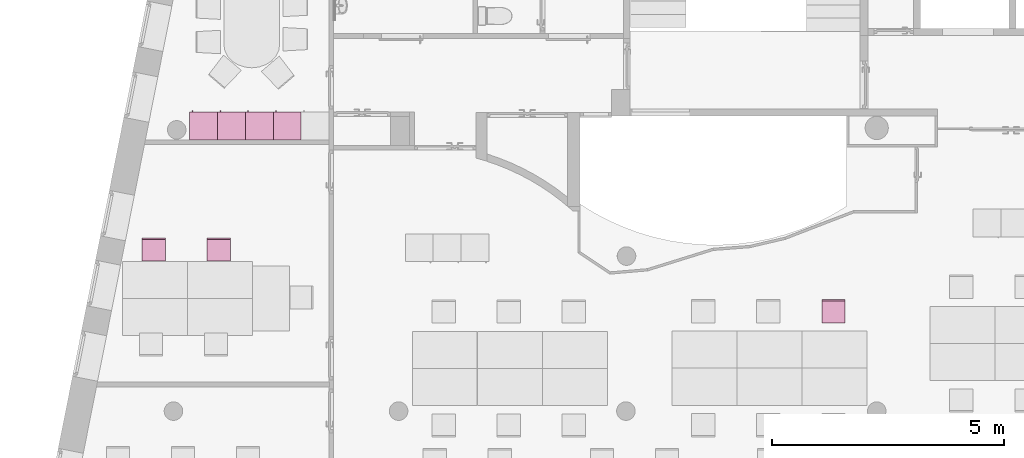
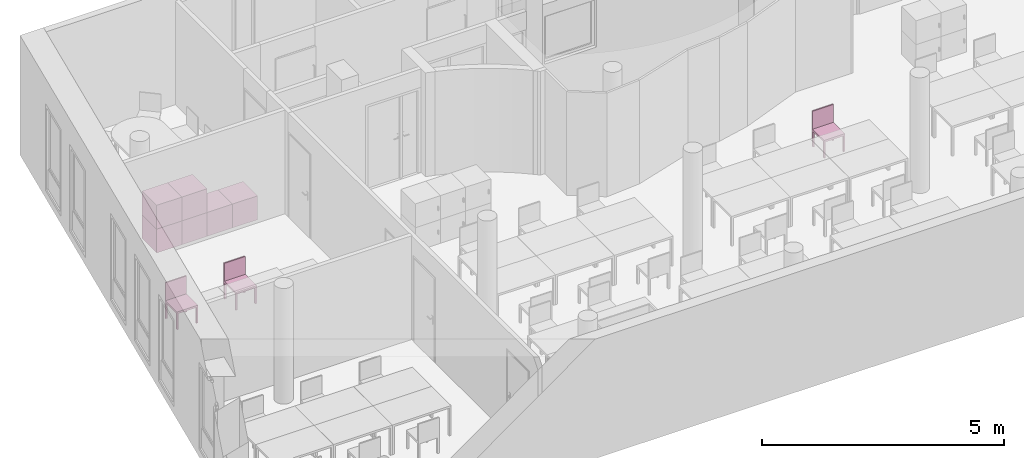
"""IFC4 building model written with IfcOpenShell, lengths in metres."""

from ifc_helpers import new_model, entity, si_unit, converted_unit, derived_unit, frame, origin, place, context, subcontext, project, spatial, faceted_brep, element, save


model = new_model("IFC4")

# Units and contexts
model_context = context("Model", 3, precision=1e-05, world=origin())
body_context = subcontext(model_context, "Body", "Model", "MODEL_VIEW")
ifc_project = project(units=[si_unit("LENGTHUNIT", "METRE"), si_unit("AREAUNIT", "SQUARE_METRE"), si_unit("VOLUMEUNIT", "CUBIC_METRE"), si_unit("MASSUNIT", "GRAM", prefix="KILO"), converted_unit("PLANEANGLEUNIT", "DEGREE", entity("IfcPlaneAngleMeasure", 0.0174532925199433), si_unit("PLANEANGLEUNIT", "RADIAN"), dimensions=[0, 0, 0, 0, 0, 0, 0]), derived_unit("THERMALTRANSMITTANCEUNIT", [(si_unit("POWERUNIT", "WATT"), 1), (si_unit("THERMODYNAMICTEMPERATUREUNIT", "KELVIN"), -1), (si_unit("LENGTHUNIT", "METRE"), -2)]), derived_unit("VOLUMETRICFLOWRATEUNIT", [(si_unit("LENGTHUNIT", "METRE"), 3), (converted_unit("TIMEUNIT", "hour", entity("IfcTimeMeasure", 3600.0), si_unit("TIMEUNIT", "SECOND"), dimensions=[0, 0, 1, 0, 0, 0, 0]), -1), (si_unit("LENGTHUNIT", "METRE"), -1)])], contexts=[model_context])

# Building, storeys
building_placement = place(None, origin())
building = spatial("IfcBuilding", under=ifc_project, at=building_placement, Name="HABITATGE PLURIFAMILIAR", CompositionType="ELEMENT")
storey_1_placement = place(building_placement, frame((0.0, 0.0, 18.29)))
storey_1 = spatial("IfcBuildingStorey", under=building, at=storey_1_placement, Name="PLANTA CINQUENA", CompositionType="ELEMENT", Elevation=18.29)
storey_2_placement = place(storey_1_placement, frame((0.0, 0.0, 15.28)))
storey_2 = spatial("IfcBuildingStorey", under=storey_1, at=storey_2_placement, Name="NOU", CompositionType="PARTIAL")

# Furniture
furniture_1_placement = place(storey_2_placement, frame((414.953718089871, 19.7007130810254, -15.2746385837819)))
element("IfcFurniture", 1, at=furniture_1_placement, inside=storey_2, Name="Cadira d'Oficina_P5", context=body_context, shape_type="Brep", body=[
    faceted_brep([(0.0, 0.0, 0.4), (0.5, 0.0, 0.4), (0.5, 0.500000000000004, 0.4), (0.0, 0.5, 0.4), (0.0, 0.5, 0.45), (0.5, 0.500000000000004, 0.45), (0.5, 0.0, 0.45), (0.0, 0.0, 0.45)], [[[0, 1, 2, 3]], [[4, 5, 6, 7]], [[3, 4, 7, 0]], [[2, 5, 4, 3]], [[1, 6, 5, 2]], [[0, 7, 6, 1]]], orient=[[False], [False], [False], [False], [False], [False]]),
    faceted_brep([(0.5, 0.460000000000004, 0.0), (0.5, 0.500000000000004, 0.0), (0.46, 0.5, 0.0), (0.46, 0.46, 0.0), (0.46, 0.46, 0.4), (0.46, 0.5, 0.4), (0.5, 0.500000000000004, 0.4), (0.5, 0.460000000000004, 0.4)], [[[0, 1, 2, 3]], [[4, 5, 6, 7]], [[3, 4, 7, 0]], [[2, 5, 4, 3]], [[1, 6, 5, 2]], [[0, 7, 6, 1]]], orient=[[False], [False], [False], [False], [False], [False]]),
    faceted_brep([(0.5, 0.0, 0.0), (0.5, 0.0400000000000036, 0.0), (0.46, 0.04, 0.0), (0.46, 0.0, 0.0), (0.46, 0.0, 0.4), (0.46, 0.04, 0.4), (0.5, 0.0400000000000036, 0.4), (0.5, 0.0, 0.4)], [[[0, 1, 2, 3]], [[4, 5, 6, 7]], [[3, 4, 7, 0]], [[2, 5, 4, 3]], [[1, 6, 5, 2]], [[0, 7, 6, 1]]], orient=[[False], [False], [False], [False], [False], [False]]),
    faceted_brep([(0.04, 0.46, 0.0), (0.04, 0.5, 0.0), (0.0, 0.5, 0.0), (0.0, 0.46, 0.0), (0.0, 0.46, 0.4), (0.0, 0.5, 0.4), (0.04, 0.5, 0.4), (0.04, 0.46, 0.4)], [[[0, 1, 2, 3]], [[4, 5, 6, 7]], [[3, 4, 7, 0]], [[2, 5, 4, 3]], [[1, 6, 5, 2]], [[0, 7, 6, 1]]], orient=[[False], [False], [False], [False], [False], [False]]),
    faceted_brep([(0.04, 0.0, 0.0), (0.04, 0.04, 0.0), (0.0, 0.04, 0.0), (0.0, 0.0, 0.0), (0.0, 0.0, 0.4), (0.0, 0.04, 0.4), (0.04, 0.04, 0.4), (0.04, 0.0, 0.4)], [[[0, 1, 2, 3]], [[4, 5, 6, 7]], [[3, 4, 7, 0]], [[2, 5, 4, 3]], [[1, 6, 5, 2]], [[0, 7, 6, 1]]], orient=[[False], [False], [False], [False], [False], [False]]),
    faceted_brep([(0.5, 0.470000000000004, 0.45), (0.5, 0.500000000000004, 0.45), (0.0, 0.5, 0.45), (0.0, 0.47, 0.45), (0.0, 0.47, 0.9), (0.0, 0.5, 0.9), (0.5, 0.500000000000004, 0.9), (0.5, 0.470000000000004, 0.9)], [[[0, 1, 2, 3]], [[4, 5, 6, 7]], [[3, 4, 7, 0]], [[2, 5, 4, 3]], [[1, 6, 5, 2]], [[0, 7, 6, 1]]], orient=[[False], [False], [False], [False], [False], [False]]),
])
furniture_2_placement = place(storey_2_placement, frame((401.713507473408, 21.030987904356, -15.2746385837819)))
element("IfcFurniture", 2, at=furniture_2_placement, inside=storey_2, Name="Cadira d'Oficina_P5", context=body_context, shape_type="Brep", body=[
    faceted_brep([(0.0, 0.0, 0.4), (0.5, 0.0, 0.4), (0.5, 0.500000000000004, 0.4), (0.0, 0.5, 0.4), (0.0, 0.5, 0.45), (0.5, 0.500000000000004, 0.45), (0.5, 0.0, 0.45), (0.0, 0.0, 0.45)], [[[0, 1, 2, 3]], [[4, 5, 6, 7]], [[3, 4, 7, 0]], [[2, 5, 4, 3]], [[1, 6, 5, 2]], [[0, 7, 6, 1]]], orient=[[False], [False], [False], [False], [False], [False]]),
    faceted_brep([(0.5, 0.460000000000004, 0.0), (0.5, 0.500000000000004, 0.0), (0.46, 0.5, 0.0), (0.46, 0.46, 0.0), (0.46, 0.46, 0.4), (0.46, 0.5, 0.4), (0.5, 0.500000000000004, 0.4), (0.5, 0.460000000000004, 0.4)], [[[0, 1, 2, 3]], [[4, 5, 6, 7]], [[3, 4, 7, 0]], [[2, 5, 4, 3]], [[1, 6, 5, 2]], [[0, 7, 6, 1]]], orient=[[False], [False], [False], [False], [False], [False]]),
    faceted_brep([(0.5, 0.0, 0.0), (0.5, 0.0400000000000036, 0.0), (0.46, 0.04, 0.0), (0.46, 0.0, 0.0), (0.46, 0.0, 0.4), (0.46, 0.04, 0.4), (0.5, 0.0400000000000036, 0.4), (0.5, 0.0, 0.4)], [[[0, 1, 2, 3]], [[4, 5, 6, 7]], [[3, 4, 7, 0]], [[2, 5, 4, 3]], [[1, 6, 5, 2]], [[0, 7, 6, 1]]], orient=[[False], [False], [False], [False], [False], [False]]),
    faceted_brep([(0.04, 0.46, 0.0), (0.04, 0.5, 0.0), (0.0, 0.5, 0.0), (0.0, 0.46, 0.0), (0.0, 0.46, 0.4), (0.0, 0.5, 0.4), (0.04, 0.5, 0.4), (0.04, 0.46, 0.4)], [[[0, 1, 2, 3]], [[4, 5, 6, 7]], [[3, 4, 7, 0]], [[2, 5, 4, 3]], [[1, 6, 5, 2]], [[0, 7, 6, 1]]], orient=[[False], [False], [False], [False], [False], [False]]),
    faceted_brep([(0.04, 0.0, 0.0), (0.04, 0.04, 0.0), (0.0, 0.04, 0.0), (0.0, 0.0, 0.0), (0.0, 0.0, 0.4), (0.0, 0.04, 0.4), (0.04, 0.04, 0.4), (0.04, 0.0, 0.4)], [[[0, 1, 2, 3]], [[4, 5, 6, 7]], [[3, 4, 7, 0]], [[2, 5, 4, 3]], [[1, 6, 5, 2]], [[0, 7, 6, 1]]], orient=[[False], [False], [False], [False], [False], [False]]),
    faceted_brep([(0.5, 0.470000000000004, 0.45), (0.5, 0.500000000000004, 0.45), (0.0, 0.5, 0.45), (0.0, 0.47, 0.45), (0.0, 0.47, 0.9), (0.0, 0.5, 0.9), (0.5, 0.500000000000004, 0.9), (0.5, 0.470000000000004, 0.9)], [[[0, 1, 2, 3]], [[4, 5, 6, 7]], [[3, 4, 7, 0]], [[2, 5, 4, 3]], [[1, 6, 5, 2]], [[0, 7, 6, 1]]], orient=[[False], [False], [False], [False], [False], [False]]),
])
furniture_3_placement = place(storey_2_placement, frame((400.312328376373, 21.030987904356, -15.2746385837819)))
element("IfcFurniture", 3, at=furniture_3_placement, inside=storey_2, Name="Cadira d'Oficina_P5", context=body_context, shape_type="Brep", body=[
    faceted_brep([(0.0, 0.0, 0.4), (0.5, 0.0, 0.4), (0.5, 0.500000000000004, 0.4), (0.0, 0.5, 0.4), (0.0, 0.5, 0.45), (0.5, 0.500000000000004, 0.45), (0.5, 0.0, 0.45), (0.0, 0.0, 0.45)], [[[0, 1, 2, 3]], [[4, 5, 6, 7]], [[3, 4, 7, 0]], [[2, 5, 4, 3]], [[1, 6, 5, 2]], [[0, 7, 6, 1]]], orient=[[False], [False], [False], [False], [False], [False]]),
    faceted_brep([(0.5, 0.460000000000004, 0.0), (0.5, 0.500000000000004, 0.0), (0.46, 0.5, 0.0), (0.46, 0.46, 0.0), (0.46, 0.46, 0.4), (0.46, 0.5, 0.4), (0.5, 0.500000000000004, 0.4), (0.5, 0.460000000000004, 0.4)], [[[0, 1, 2, 3]], [[4, 5, 6, 7]], [[3, 4, 7, 0]], [[2, 5, 4, 3]], [[1, 6, 5, 2]], [[0, 7, 6, 1]]], orient=[[False], [False], [False], [False], [False], [False]]),
    faceted_brep([(0.5, 0.0, 0.0), (0.5, 0.0400000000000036, 0.0), (0.46, 0.04, 0.0), (0.46, 0.0, 0.0), (0.46, 0.0, 0.4), (0.46, 0.04, 0.4), (0.5, 0.0400000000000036, 0.4), (0.5, 0.0, 0.4)], [[[0, 1, 2, 3]], [[4, 5, 6, 7]], [[3, 4, 7, 0]], [[2, 5, 4, 3]], [[1, 6, 5, 2]], [[0, 7, 6, 1]]], orient=[[False], [False], [False], [False], [False], [False]]),
    faceted_brep([(0.04, 0.46, 0.0), (0.04, 0.5, 0.0), (0.0, 0.5, 0.0), (0.0, 0.46, 0.0), (0.0, 0.46, 0.4), (0.0, 0.5, 0.4), (0.04, 0.5, 0.4), (0.04, 0.46, 0.4)], [[[0, 1, 2, 3]], [[4, 5, 6, 7]], [[3, 4, 7, 0]], [[2, 5, 4, 3]], [[1, 6, 5, 2]], [[0, 7, 6, 1]]], orient=[[False], [False], [False], [False], [False], [False]]),
    faceted_brep([(0.04, 0.0, 0.0), (0.04, 0.04, 0.0), (0.0, 0.04, 0.0), (0.0, 0.0, 0.0), (0.0, 0.0, 0.4), (0.0, 0.04, 0.4), (0.04, 0.04, 0.4), (0.04, 0.0, 0.4)], [[[0, 1, 2, 3]], [[4, 5, 6, 7]], [[3, 4, 7, 0]], [[2, 5, 4, 3]], [[1, 6, 5, 2]], [[0, 7, 6, 1]]], orient=[[False], [False], [False], [False], [False], [False]]),
    faceted_brep([(0.5, 0.470000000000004, 0.45), (0.5, 0.500000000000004, 0.45), (0.0, 0.5, 0.45), (0.0, 0.47, 0.45), (0.0, 0.47, 0.9), (0.0, 0.5, 0.9), (0.5, 0.500000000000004, 0.9), (0.5, 0.470000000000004, 0.9)], [[[0, 1, 2, 3]], [[4, 5, 6, 7]], [[3, 4, 7, 0]], [[2, 5, 4, 3]], [[1, 6, 5, 2]], [[0, 7, 6, 1]]], orient=[[False], [False], [False], [False], [False], [False]]),
])
furniture_4_placement = place(storey_2_placement, frame((402.536984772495, 23.6406730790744, -15.2800000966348)))
element("IfcFurniture", 4, at=furniture_4_placement, inside=storey_2, Name="Armai 60x60x60_P5", context=body_context, shape_type="Brep", body=[
    faceted_brep([(0.0, 0.6, 0.02), (0.0, 0.6, 0.0), (0.6, 0.6, 0.0), (0.6, 0.6, 0.02), (0.6, 0.0, 0.0), (0.6, 0.0, 0.02), (0.0, 0.0, 0.0), (0.0, 0.0, 0.02)], [[[0, 1, 2, 3]], [[3, 2, 4, 5]], [[5, 4, 6, 7]], [[7, 6, 1, 0]], [[0, 3, 5, 7]], [[1, 6, 4, 2]]], orient=[[False], [False], [False], [False], [False], [False]]),
    faceted_brep([(0.580000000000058, 0.0, 0.58), (0.580000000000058, 0.0200000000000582, 0.58), (0.580000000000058, 0.0200000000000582, 0.02), (0.580000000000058, 0.0, 0.02), (0.0200000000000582, 0.0200000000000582, 0.02), (0.0200000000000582, 0.0, 0.02), (0.0200000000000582, 0.0200000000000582, 0.58), (0.0200000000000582, 0.0, 0.58)], [[[0, 1, 2, 3]], [[3, 2, 4, 5]], [[5, 4, 6, 7]], [[7, 6, 1, 0]], [[0, 3, 5, 7]], [[1, 6, 4, 2]]], orient=[[False], [False], [False], [False], [False], [False]]),
    faceted_brep([(0.0200000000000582, 0.6, 0.58), (0.0, 0.6, 0.58), (0.0, 0.6, 0.02), (0.0200000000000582, 0.6, 0.02), (0.0, 0.0, 0.02), (0.0200000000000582, 0.0, 0.02), (0.0, 0.0, 0.58), (0.0200000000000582, 0.0, 0.58)], [[[0, 1, 2, 3]], [[3, 2, 4, 5]], [[5, 4, 6, 7]], [[7, 6, 1, 0]], [[0, 3, 5, 7]], [[1, 6, 4, 2]]], orient=[[False], [False], [False], [False], [False], [False]]),
    faceted_brep([(0.0, 0.58, 0.58), (0.0, 0.6, 0.58), (0.0, 0.6, 0.02), (0.0, 0.58, 0.02), (0.02, 0.6, 0.02), (0.02, 0.58, 0.02), (0.02, 0.6, 0.58), (0.02, 0.58, 0.58)], [[[0, 1, 2, 3]], [[3, 2, 4, 5]], [[5, 4, 6, 7]], [[7, 6, 1, 0]], [[0, 3, 5, 7]], [[1, 6, 4, 2]]], orient=[[False], [False], [False], [False], [False], [False]]),
    faceted_brep([(0.6, 0.6, 0.58), (0.58, 0.6, 0.58), (0.58, 0.6, 0.02), (0.6, 0.6, 0.02), (0.58, 0.0, 0.02), (0.6, 0.0, 0.02), (0.58, 0.0, 0.58), (0.6, 0.0, 0.58)], [[[0, 1, 2, 3]], [[3, 2, 4, 5]], [[5, 4, 6, 7]], [[7, 6, 1, 0]], [[0, 3, 5, 7]], [[1, 6, 4, 2]]], orient=[[False], [False], [False], [False], [False], [False]]),
    faceted_brep([(0.0, 0.600000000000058, 0.6), (0.0, 0.600000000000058, 0.58), (0.600000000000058, 0.600000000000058, 0.58), (0.600000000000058, 0.600000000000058, 0.6), (0.600000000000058, 0.0, 0.58), (0.600000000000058, 0.0, 0.6), (0.0, 0.0, 0.58), (0.0, 0.0, 0.6)], [[[0, 1, 2, 3]], [[3, 2, 4, 5]], [[5, 4, 6, 7]], [[7, 6, 1, 0]], [[0, 3, 5, 7]], [[1, 6, 4, 2]]], orient=[[False], [False], [False], [False], [False], [False]]),
    faceted_brep([(0.580000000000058, 0.580000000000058, 0.58), (0.580000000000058, 0.600000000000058, 0.58), (0.580000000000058, 0.600000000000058, 0.02), (0.580000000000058, 0.580000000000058, 0.02), (0.02, 0.600000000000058, 0.02), (0.02, 0.580000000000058, 0.02), (0.02, 0.600000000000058, 0.58), (0.02, 0.580000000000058, 0.58)], [[[0, 1, 2, 3]], [[3, 2, 4, 5]], [[5, 4, 6, 7]], [[7, 6, 1, 0]], [[0, 3, 5, 7]], [[1, 6, 4, 2]]], orient=[[False], [False], [False], [False], [False], [False]]),
    faceted_brep([(0.0700000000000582, 0.600000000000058, 0.358064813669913), (0.0700000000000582, 0.630000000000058, 0.358064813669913), (0.0700000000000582, 0.630000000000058, 0.258064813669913), (0.0700000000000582, 0.600000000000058, 0.258064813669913), (0.0500000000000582, 0.630000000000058, 0.258064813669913), (0.0500000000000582, 0.600000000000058, 0.258064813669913), (0.0500000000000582, 0.630000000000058, 0.358064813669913), (0.0500000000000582, 0.600000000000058, 0.358064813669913)], [[[0, 1, 2, 3]], [[3, 2, 4, 5]], [[5, 4, 6, 7]], [[7, 6, 1, 0]], [[0, 3, 5, 7]], [[1, 6, 4, 2]]], orient=[[False], [False], [False], [False], [False], [False]]),
])
furniture_5_placement = place(storey_2_placement, frame((403.136984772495, 23.6406730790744, -15.2800000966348)))
element("IfcFurniture", 5, at=furniture_5_placement, inside=storey_2, Name="Armai 60x60x60_P5", context=body_context, shape_type="Brep", body=[
    faceted_brep([(0.0, 0.6, 0.02), (0.0, 0.6, 0.0), (0.6, 0.6, 0.0), (0.6, 0.6, 0.02), (0.6, 0.0, 0.0), (0.6, 0.0, 0.02), (0.0, 0.0, 0.0), (0.0, 0.0, 0.02)], [[[0, 1, 2, 3]], [[3, 2, 4, 5]], [[5, 4, 6, 7]], [[7, 6, 1, 0]], [[0, 3, 5, 7]], [[1, 6, 4, 2]]], orient=[[False], [False], [False], [False], [False], [False]]),
    faceted_brep([(0.580000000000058, 0.0, 0.58), (0.580000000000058, 0.0200000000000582, 0.58), (0.580000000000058, 0.0200000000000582, 0.02), (0.580000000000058, 0.0, 0.02), (0.0200000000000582, 0.0200000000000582, 0.02), (0.0200000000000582, 0.0, 0.02), (0.0200000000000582, 0.0200000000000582, 0.58), (0.0200000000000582, 0.0, 0.58)], [[[0, 1, 2, 3]], [[3, 2, 4, 5]], [[5, 4, 6, 7]], [[7, 6, 1, 0]], [[0, 3, 5, 7]], [[1, 6, 4, 2]]], orient=[[False], [False], [False], [False], [False], [False]]),
    faceted_brep([(0.0200000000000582, 0.6, 0.58), (0.0, 0.6, 0.58), (0.0, 0.6, 0.02), (0.0200000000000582, 0.6, 0.02), (0.0, 0.0, 0.02), (0.0200000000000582, 0.0, 0.02), (0.0, 0.0, 0.58), (0.0200000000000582, 0.0, 0.58)], [[[0, 1, 2, 3]], [[3, 2, 4, 5]], [[5, 4, 6, 7]], [[7, 6, 1, 0]], [[0, 3, 5, 7]], [[1, 6, 4, 2]]], orient=[[False], [False], [False], [False], [False], [False]]),
    faceted_brep([(0.0, 0.58, 0.58), (0.0, 0.6, 0.58), (0.0, 0.6, 0.02), (0.0, 0.58, 0.02), (0.02, 0.6, 0.02), (0.02, 0.58, 0.02), (0.02, 0.6, 0.58), (0.02, 0.58, 0.58)], [[[0, 1, 2, 3]], [[3, 2, 4, 5]], [[5, 4, 6, 7]], [[7, 6, 1, 0]], [[0, 3, 5, 7]], [[1, 6, 4, 2]]], orient=[[False], [False], [False], [False], [False], [False]]),
    faceted_brep([(0.6, 0.6, 0.58), (0.58, 0.6, 0.58), (0.58, 0.6, 0.02), (0.6, 0.6, 0.02), (0.58, 0.0, 0.02), (0.6, 0.0, 0.02), (0.58, 0.0, 0.58), (0.6, 0.0, 0.58)], [[[0, 1, 2, 3]], [[3, 2, 4, 5]], [[5, 4, 6, 7]], [[7, 6, 1, 0]], [[0, 3, 5, 7]], [[1, 6, 4, 2]]], orient=[[False], [False], [False], [False], [False], [False]]),
    faceted_brep([(0.0, 0.600000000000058, 0.6), (0.0, 0.600000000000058, 0.58), (0.600000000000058, 0.600000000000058, 0.58), (0.600000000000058, 0.600000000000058, 0.6), (0.600000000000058, 0.0, 0.58), (0.600000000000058, 0.0, 0.6), (0.0, 0.0, 0.58), (0.0, 0.0, 0.6)], [[[0, 1, 2, 3]], [[3, 2, 4, 5]], [[5, 4, 6, 7]], [[7, 6, 1, 0]], [[0, 3, 5, 7]], [[1, 6, 4, 2]]], orient=[[False], [False], [False], [False], [False], [False]]),
    faceted_brep([(0.580000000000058, 0.580000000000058, 0.58), (0.580000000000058, 0.600000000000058, 0.58), (0.580000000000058, 0.600000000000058, 0.02), (0.580000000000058, 0.580000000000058, 0.02), (0.02, 0.600000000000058, 0.02), (0.02, 0.580000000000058, 0.02), (0.02, 0.600000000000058, 0.58), (0.02, 0.580000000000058, 0.58)], [[[0, 1, 2, 3]], [[3, 2, 4, 5]], [[5, 4, 6, 7]], [[7, 6, 1, 0]], [[0, 3, 5, 7]], [[1, 6, 4, 2]]], orient=[[False], [False], [False], [False], [False], [False]]),
    faceted_brep([(0.0700000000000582, 0.600000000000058, 0.358064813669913), (0.0700000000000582, 0.630000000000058, 0.358064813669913), (0.0700000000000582, 0.630000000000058, 0.258064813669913), (0.0700000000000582, 0.600000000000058, 0.258064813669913), (0.0500000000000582, 0.630000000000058, 0.258064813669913), (0.0500000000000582, 0.600000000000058, 0.258064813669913), (0.0500000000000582, 0.630000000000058, 0.358064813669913), (0.0500000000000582, 0.600000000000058, 0.358064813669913)], [[[0, 1, 2, 3]], [[3, 2, 4, 5]], [[5, 4, 6, 7]], [[7, 6, 1, 0]], [[0, 3, 5, 7]], [[1, 6, 4, 2]]], orient=[[False], [False], [False], [False], [False], [False]]),
])
furniture_6_placement = place(storey_2_placement, frame((401.336984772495, 23.6406730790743, -15.2800000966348)))
element("IfcFurniture", 6, at=furniture_6_placement, inside=storey_2, Name="Armai 60x60x60_P5", context=body_context, shape_type="Brep", body=[
    faceted_brep([(0.0, 0.6, 0.02), (0.0, 0.6, 0.0), (0.6, 0.6, 0.0), (0.6, 0.6, 0.02), (0.6, 0.0, 0.0), (0.6, 0.0, 0.02), (0.0, 0.0, 0.0), (0.0, 0.0, 0.02)], [[[0, 1, 2, 3]], [[3, 2, 4, 5]], [[5, 4, 6, 7]], [[7, 6, 1, 0]], [[0, 3, 5, 7]], [[1, 6, 4, 2]]], orient=[[False], [False], [False], [False], [False], [False]]),
    faceted_brep([(0.580000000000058, 0.0, 0.58), (0.580000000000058, 0.0200000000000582, 0.58), (0.580000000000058, 0.0200000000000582, 0.02), (0.580000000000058, 0.0, 0.02), (0.0200000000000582, 0.0200000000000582, 0.02), (0.0200000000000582, 0.0, 0.02), (0.0200000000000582, 0.0200000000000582, 0.58), (0.0200000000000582, 0.0, 0.58)], [[[0, 1, 2, 3]], [[3, 2, 4, 5]], [[5, 4, 6, 7]], [[7, 6, 1, 0]], [[0, 3, 5, 7]], [[1, 6, 4, 2]]], orient=[[False], [False], [False], [False], [False], [False]]),
    faceted_brep([(0.0200000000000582, 0.6, 0.58), (0.0, 0.6, 0.58), (0.0, 0.6, 0.02), (0.0200000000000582, 0.6, 0.02), (0.0, 0.0, 0.02), (0.0200000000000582, 0.0, 0.02), (0.0, 0.0, 0.58), (0.0200000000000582, 0.0, 0.58)], [[[0, 1, 2, 3]], [[3, 2, 4, 5]], [[5, 4, 6, 7]], [[7, 6, 1, 0]], [[0, 3, 5, 7]], [[1, 6, 4, 2]]], orient=[[False], [False], [False], [False], [False], [False]]),
    faceted_brep([(0.0, 0.58, 0.58), (0.0, 0.6, 0.58), (0.0, 0.6, 0.02), (0.0, 0.58, 0.02), (0.02, 0.6, 0.02), (0.02, 0.58, 0.02), (0.02, 0.6, 0.58), (0.02, 0.58, 0.58)], [[[0, 1, 2, 3]], [[3, 2, 4, 5]], [[5, 4, 6, 7]], [[7, 6, 1, 0]], [[0, 3, 5, 7]], [[1, 6, 4, 2]]], orient=[[False], [False], [False], [False], [False], [False]]),
    faceted_brep([(0.6, 0.6, 0.58), (0.58, 0.6, 0.58), (0.58, 0.6, 0.02), (0.6, 0.6, 0.02), (0.58, 0.0, 0.02), (0.6, 0.0, 0.02), (0.58, 0.0, 0.58), (0.6, 0.0, 0.58)], [[[0, 1, 2, 3]], [[3, 2, 4, 5]], [[5, 4, 6, 7]], [[7, 6, 1, 0]], [[0, 3, 5, 7]], [[1, 6, 4, 2]]], orient=[[False], [False], [False], [False], [False], [False]]),
    faceted_brep([(0.0, 0.600000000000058, 0.6), (0.0, 0.600000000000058, 0.58), (0.600000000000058, 0.600000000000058, 0.58), (0.600000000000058, 0.600000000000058, 0.6), (0.600000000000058, 0.0, 0.58), (0.600000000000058, 0.0, 0.6), (0.0, 0.0, 0.58), (0.0, 0.0, 0.6)], [[[0, 1, 2, 3]], [[3, 2, 4, 5]], [[5, 4, 6, 7]], [[7, 6, 1, 0]], [[0, 3, 5, 7]], [[1, 6, 4, 2]]], orient=[[False], [False], [False], [False], [False], [False]]),
    faceted_brep([(0.580000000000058, 0.580000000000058, 0.58), (0.580000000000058, 0.600000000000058, 0.58), (0.580000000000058, 0.600000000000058, 0.02), (0.580000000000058, 0.580000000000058, 0.02), (0.02, 0.600000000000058, 0.02), (0.02, 0.580000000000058, 0.02), (0.02, 0.600000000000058, 0.58), (0.02, 0.580000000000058, 0.58)], [[[0, 1, 2, 3]], [[3, 2, 4, 5]], [[5, 4, 6, 7]], [[7, 6, 1, 0]], [[0, 3, 5, 7]], [[1, 6, 4, 2]]], orient=[[False], [False], [False], [False], [False], [False]]),
    faceted_brep([(0.0700000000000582, 0.600000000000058, 0.358064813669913), (0.0700000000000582, 0.630000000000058, 0.358064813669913), (0.0700000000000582, 0.630000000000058, 0.258064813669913), (0.0700000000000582, 0.600000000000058, 0.258064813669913), (0.0500000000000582, 0.630000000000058, 0.258064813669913), (0.0500000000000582, 0.600000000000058, 0.258064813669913), (0.0500000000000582, 0.630000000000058, 0.358064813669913), (0.0500000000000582, 0.600000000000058, 0.358064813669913)], [[[0, 1, 2, 3]], [[3, 2, 4, 5]], [[5, 4, 6, 7]], [[7, 6, 1, 0]], [[0, 3, 5, 7]], [[1, 6, 4, 2]]], orient=[[False], [False], [False], [False], [False], [False]]),
])
furniture_7_placement = place(storey_2_placement, frame((401.936984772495, 23.6406730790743, -15.2800000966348)))
element("IfcFurniture", 7, at=furniture_7_placement, inside=storey_2, Name="Armai 60x60x60_P5", context=body_context, shape_type="Brep", body=[
    faceted_brep([(0.0, 0.6, 0.02), (0.0, 0.6, 0.0), (0.6, 0.6, 0.0), (0.6, 0.6, 0.02), (0.6, 0.0, 0.0), (0.6, 0.0, 0.02), (0.0, 0.0, 0.0), (0.0, 0.0, 0.02)], [[[0, 1, 2, 3]], [[3, 2, 4, 5]], [[5, 4, 6, 7]], [[7, 6, 1, 0]], [[0, 3, 5, 7]], [[1, 6, 4, 2]]], orient=[[False], [False], [False], [False], [False], [False]]),
    faceted_brep([(0.580000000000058, 0.0, 0.58), (0.580000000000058, 0.0200000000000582, 0.58), (0.580000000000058, 0.0200000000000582, 0.02), (0.580000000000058, 0.0, 0.02), (0.0200000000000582, 0.0200000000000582, 0.02), (0.0200000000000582, 0.0, 0.02), (0.0200000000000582, 0.0200000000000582, 0.58), (0.0200000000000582, 0.0, 0.58)], [[[0, 1, 2, 3]], [[3, 2, 4, 5]], [[5, 4, 6, 7]], [[7, 6, 1, 0]], [[0, 3, 5, 7]], [[1, 6, 4, 2]]], orient=[[False], [False], [False], [False], [False], [False]]),
    faceted_brep([(0.0200000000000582, 0.6, 0.58), (0.0, 0.6, 0.58), (0.0, 0.6, 0.02), (0.0200000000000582, 0.6, 0.02), (0.0, 0.0, 0.02), (0.0200000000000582, 0.0, 0.02), (0.0, 0.0, 0.58), (0.0200000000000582, 0.0, 0.58)], [[[0, 1, 2, 3]], [[3, 2, 4, 5]], [[5, 4, 6, 7]], [[7, 6, 1, 0]], [[0, 3, 5, 7]], [[1, 6, 4, 2]]], orient=[[False], [False], [False], [False], [False], [False]]),
    faceted_brep([(0.0, 0.58, 0.58), (0.0, 0.6, 0.58), (0.0, 0.6, 0.02), (0.0, 0.58, 0.02), (0.02, 0.6, 0.02), (0.02, 0.58, 0.02), (0.02, 0.6, 0.58), (0.02, 0.58, 0.58)], [[[0, 1, 2, 3]], [[3, 2, 4, 5]], [[5, 4, 6, 7]], [[7, 6, 1, 0]], [[0, 3, 5, 7]], [[1, 6, 4, 2]]], orient=[[False], [False], [False], [False], [False], [False]]),
    faceted_brep([(0.6, 0.6, 0.58), (0.58, 0.6, 0.58), (0.58, 0.6, 0.02), (0.6, 0.6, 0.02), (0.58, 0.0, 0.02), (0.6, 0.0, 0.02), (0.58, 0.0, 0.58), (0.6, 0.0, 0.58)], [[[0, 1, 2, 3]], [[3, 2, 4, 5]], [[5, 4, 6, 7]], [[7, 6, 1, 0]], [[0, 3, 5, 7]], [[1, 6, 4, 2]]], orient=[[False], [False], [False], [False], [False], [False]]),
    faceted_brep([(0.0, 0.600000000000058, 0.6), (0.0, 0.600000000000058, 0.58), (0.600000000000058, 0.600000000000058, 0.58), (0.600000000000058, 0.600000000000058, 0.6), (0.600000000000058, 0.0, 0.58), (0.600000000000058, 0.0, 0.6), (0.0, 0.0, 0.58), (0.0, 0.0, 0.6)], [[[0, 1, 2, 3]], [[3, 2, 4, 5]], [[5, 4, 6, 7]], [[7, 6, 1, 0]], [[0, 3, 5, 7]], [[1, 6, 4, 2]]], orient=[[False], [False], [False], [False], [False], [False]]),
    faceted_brep([(0.580000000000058, 0.580000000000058, 0.58), (0.580000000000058, 0.600000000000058, 0.58), (0.580000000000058, 0.600000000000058, 0.02), (0.580000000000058, 0.580000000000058, 0.02), (0.02, 0.600000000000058, 0.02), (0.02, 0.580000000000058, 0.02), (0.02, 0.600000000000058, 0.58), (0.02, 0.580000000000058, 0.58)], [[[0, 1, 2, 3]], [[3, 2, 4, 5]], [[5, 4, 6, 7]], [[7, 6, 1, 0]], [[0, 3, 5, 7]], [[1, 6, 4, 2]]], orient=[[False], [False], [False], [False], [False], [False]]),
    faceted_brep([(0.0700000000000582, 0.600000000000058, 0.358064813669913), (0.0700000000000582, 0.630000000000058, 0.358064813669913), (0.0700000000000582, 0.630000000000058, 0.258064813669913), (0.0700000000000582, 0.600000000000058, 0.258064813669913), (0.0500000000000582, 0.630000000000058, 0.258064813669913), (0.0500000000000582, 0.600000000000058, 0.258064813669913), (0.0500000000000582, 0.630000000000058, 0.358064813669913), (0.0500000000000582, 0.600000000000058, 0.358064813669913)], [[[0, 1, 2, 3]], [[3, 2, 4, 5]], [[5, 4, 6, 7]], [[7, 6, 1, 0]], [[0, 3, 5, 7]], [[1, 6, 4, 2]]], orient=[[False], [False], [False], [False], [False], [False]]),
])
furniture_8_placement = place(storey_2_placement, frame((401.336984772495, 23.6406730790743, -14.6800000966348)))
element("IfcFurniture", 8, at=furniture_8_placement, inside=storey_2, Name="Armai 60x60x60_P5", context=body_context, shape_type="Brep", body=[
    faceted_brep([(0.0, 0.6, 0.02), (0.0, 0.6, 0.0), (0.6, 0.6, 0.0), (0.6, 0.6, 0.02), (0.6, 0.0, 0.0), (0.6, 0.0, 0.02), (0.0, 0.0, 0.0), (0.0, 0.0, 0.02)], [[[0, 1, 2, 3]], [[3, 2, 4, 5]], [[5, 4, 6, 7]], [[7, 6, 1, 0]], [[0, 3, 5, 7]], [[1, 6, 4, 2]]], orient=[[False], [False], [False], [False], [False], [False]]),
    faceted_brep([(0.580000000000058, 0.0, 0.58), (0.580000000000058, 0.0200000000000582, 0.58), (0.580000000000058, 0.0200000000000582, 0.02), (0.580000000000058, 0.0, 0.02), (0.0200000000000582, 0.0200000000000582, 0.02), (0.0200000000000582, 0.0, 0.02), (0.0200000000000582, 0.0200000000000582, 0.58), (0.0200000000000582, 0.0, 0.58)], [[[0, 1, 2, 3]], [[3, 2, 4, 5]], [[5, 4, 6, 7]], [[7, 6, 1, 0]], [[0, 3, 5, 7]], [[1, 6, 4, 2]]], orient=[[False], [False], [False], [False], [False], [False]]),
    faceted_brep([(0.0200000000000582, 0.6, 0.58), (0.0, 0.6, 0.58), (0.0, 0.6, 0.02), (0.0200000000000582, 0.6, 0.02), (0.0, 0.0, 0.02), (0.0200000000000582, 0.0, 0.02), (0.0, 0.0, 0.58), (0.0200000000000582, 0.0, 0.58)], [[[0, 1, 2, 3]], [[3, 2, 4, 5]], [[5, 4, 6, 7]], [[7, 6, 1, 0]], [[0, 3, 5, 7]], [[1, 6, 4, 2]]], orient=[[False], [False], [False], [False], [False], [False]]),
    faceted_brep([(0.0, 0.58, 0.58), (0.0, 0.6, 0.58), (0.0, 0.6, 0.02), (0.0, 0.58, 0.02), (0.02, 0.6, 0.02), (0.02, 0.58, 0.02), (0.02, 0.6, 0.58), (0.02, 0.58, 0.58)], [[[0, 1, 2, 3]], [[3, 2, 4, 5]], [[5, 4, 6, 7]], [[7, 6, 1, 0]], [[0, 3, 5, 7]], [[1, 6, 4, 2]]], orient=[[False], [False], [False], [False], [False], [False]]),
    faceted_brep([(0.6, 0.6, 0.58), (0.58, 0.6, 0.58), (0.58, 0.6, 0.02), (0.6, 0.6, 0.02), (0.58, 0.0, 0.02), (0.6, 0.0, 0.02), (0.58, 0.0, 0.58), (0.6, 0.0, 0.58)], [[[0, 1, 2, 3]], [[3, 2, 4, 5]], [[5, 4, 6, 7]], [[7, 6, 1, 0]], [[0, 3, 5, 7]], [[1, 6, 4, 2]]], orient=[[False], [False], [False], [False], [False], [False]]),
    faceted_brep([(0.0, 0.600000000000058, 0.6), (0.0, 0.600000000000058, 0.58), (0.600000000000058, 0.600000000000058, 0.58), (0.600000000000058, 0.600000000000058, 0.6), (0.600000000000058, 0.0, 0.58), (0.600000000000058, 0.0, 0.6), (0.0, 0.0, 0.58), (0.0, 0.0, 0.6)], [[[0, 1, 2, 3]], [[3, 2, 4, 5]], [[5, 4, 6, 7]], [[7, 6, 1, 0]], [[0, 3, 5, 7]], [[1, 6, 4, 2]]], orient=[[False], [False], [False], [False], [False], [False]]),
    faceted_brep([(0.580000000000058, 0.580000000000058, 0.58), (0.580000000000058, 0.600000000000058, 0.58), (0.580000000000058, 0.600000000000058, 0.02), (0.580000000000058, 0.580000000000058, 0.02), (0.02, 0.600000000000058, 0.02), (0.02, 0.580000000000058, 0.02), (0.02, 0.600000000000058, 0.58), (0.02, 0.580000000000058, 0.58)], [[[0, 1, 2, 3]], [[3, 2, 4, 5]], [[5, 4, 6, 7]], [[7, 6, 1, 0]], [[0, 3, 5, 7]], [[1, 6, 4, 2]]], orient=[[False], [False], [False], [False], [False], [False]]),
    faceted_brep([(0.0700000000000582, 0.600000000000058, 0.358064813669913), (0.0700000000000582, 0.630000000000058, 0.358064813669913), (0.0700000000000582, 0.630000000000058, 0.258064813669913), (0.0700000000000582, 0.600000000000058, 0.258064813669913), (0.0500000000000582, 0.630000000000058, 0.258064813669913), (0.0500000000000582, 0.600000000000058, 0.258064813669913), (0.0500000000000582, 0.630000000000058, 0.358064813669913), (0.0500000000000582, 0.600000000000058, 0.358064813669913)], [[[0, 1, 2, 3]], [[3, 2, 4, 5]], [[5, 4, 6, 7]], [[7, 6, 1, 0]], [[0, 3, 5, 7]], [[1, 6, 4, 2]]], orient=[[False], [False], [False], [False], [False], [False]]),
])
furniture_9_placement = place(storey_2_placement, frame((401.936984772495, 23.6406730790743, -14.6800000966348)))
element("IfcFurniture", 9, at=furniture_9_placement, inside=storey_2, Name="Armai 60x60x60_P5", context=body_context, shape_type="Brep", body=[
    faceted_brep([(0.0, 0.6, 0.02), (0.0, 0.6, 0.0), (0.6, 0.6, 0.0), (0.6, 0.6, 0.02), (0.6, 0.0, 0.0), (0.6, 0.0, 0.02), (0.0, 0.0, 0.0), (0.0, 0.0, 0.02)], [[[0, 1, 2, 3]], [[3, 2, 4, 5]], [[5, 4, 6, 7]], [[7, 6, 1, 0]], [[0, 3, 5, 7]], [[1, 6, 4, 2]]], orient=[[False], [False], [False], [False], [False], [False]]),
    faceted_brep([(0.580000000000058, 0.0, 0.58), (0.580000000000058, 0.0200000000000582, 0.58), (0.580000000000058, 0.0200000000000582, 0.02), (0.580000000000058, 0.0, 0.02), (0.0200000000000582, 0.0200000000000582, 0.02), (0.0200000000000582, 0.0, 0.02), (0.0200000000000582, 0.0200000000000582, 0.58), (0.0200000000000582, 0.0, 0.58)], [[[0, 1, 2, 3]], [[3, 2, 4, 5]], [[5, 4, 6, 7]], [[7, 6, 1, 0]], [[0, 3, 5, 7]], [[1, 6, 4, 2]]], orient=[[False], [False], [False], [False], [False], [False]]),
    faceted_brep([(0.0200000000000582, 0.6, 0.58), (0.0, 0.6, 0.58), (0.0, 0.6, 0.02), (0.0200000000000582, 0.6, 0.02), (0.0, 0.0, 0.02), (0.0200000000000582, 0.0, 0.02), (0.0, 0.0, 0.58), (0.0200000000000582, 0.0, 0.58)], [[[0, 1, 2, 3]], [[3, 2, 4, 5]], [[5, 4, 6, 7]], [[7, 6, 1, 0]], [[0, 3, 5, 7]], [[1, 6, 4, 2]]], orient=[[False], [False], [False], [False], [False], [False]]),
    faceted_brep([(0.0, 0.58, 0.58), (0.0, 0.6, 0.58), (0.0, 0.6, 0.02), (0.0, 0.58, 0.02), (0.02, 0.6, 0.02), (0.02, 0.58, 0.02), (0.02, 0.6, 0.58), (0.02, 0.58, 0.58)], [[[0, 1, 2, 3]], [[3, 2, 4, 5]], [[5, 4, 6, 7]], [[7, 6, 1, 0]], [[0, 3, 5, 7]], [[1, 6, 4, 2]]], orient=[[False], [False], [False], [False], [False], [False]]),
    faceted_brep([(0.6, 0.6, 0.58), (0.58, 0.6, 0.58), (0.58, 0.6, 0.02), (0.6, 0.6, 0.02), (0.58, 0.0, 0.02), (0.6, 0.0, 0.02), (0.58, 0.0, 0.58), (0.6, 0.0, 0.58)], [[[0, 1, 2, 3]], [[3, 2, 4, 5]], [[5, 4, 6, 7]], [[7, 6, 1, 0]], [[0, 3, 5, 7]], [[1, 6, 4, 2]]], orient=[[False], [False], [False], [False], [False], [False]]),
    faceted_brep([(0.0, 0.600000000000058, 0.6), (0.0, 0.600000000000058, 0.58), (0.600000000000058, 0.600000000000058, 0.58), (0.600000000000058, 0.600000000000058, 0.6), (0.600000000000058, 0.0, 0.58), (0.600000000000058, 0.0, 0.6), (0.0, 0.0, 0.58), (0.0, 0.0, 0.6)], [[[0, 1, 2, 3]], [[3, 2, 4, 5]], [[5, 4, 6, 7]], [[7, 6, 1, 0]], [[0, 3, 5, 7]], [[1, 6, 4, 2]]], orient=[[False], [False], [False], [False], [False], [False]]),
    faceted_brep([(0.580000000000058, 0.580000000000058, 0.58), (0.580000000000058, 0.600000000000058, 0.58), (0.580000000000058, 0.600000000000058, 0.02), (0.580000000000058, 0.580000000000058, 0.02), (0.02, 0.600000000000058, 0.02), (0.02, 0.580000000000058, 0.02), (0.02, 0.600000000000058, 0.58), (0.02, 0.580000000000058, 0.58)], [[[0, 1, 2, 3]], [[3, 2, 4, 5]], [[5, 4, 6, 7]], [[7, 6, 1, 0]], [[0, 3, 5, 7]], [[1, 6, 4, 2]]], orient=[[False], [False], [False], [False], [False], [False]]),
    faceted_brep([(0.0700000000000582, 0.600000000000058, 0.358064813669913), (0.0700000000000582, 0.630000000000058, 0.358064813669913), (0.0700000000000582, 0.630000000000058, 0.258064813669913), (0.0700000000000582, 0.600000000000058, 0.258064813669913), (0.0500000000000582, 0.630000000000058, 0.258064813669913), (0.0500000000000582, 0.600000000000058, 0.258064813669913), (0.0500000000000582, 0.630000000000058, 0.358064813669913), (0.0500000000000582, 0.600000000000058, 0.358064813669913)], [[[0, 1, 2, 3]], [[3, 2, 4, 5]], [[5, 4, 6, 7]], [[7, 6, 1, 0]], [[0, 3, 5, 7]], [[1, 6, 4, 2]]], orient=[[False], [False], [False], [False], [False], [False]]),
])

save(model, "model.ifc")
